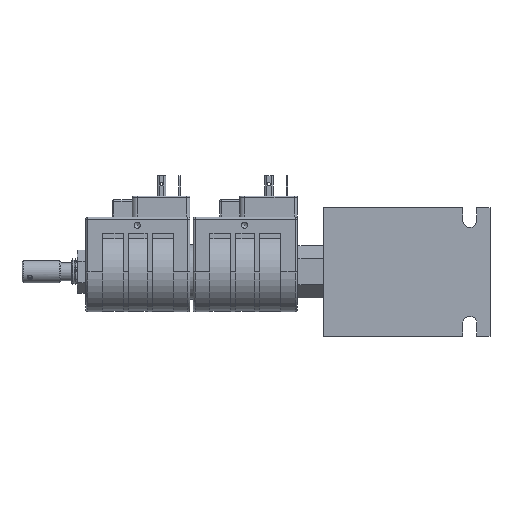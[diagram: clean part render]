
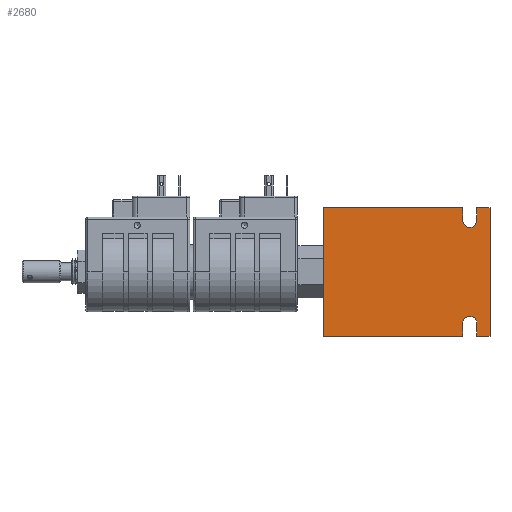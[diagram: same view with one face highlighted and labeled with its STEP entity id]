
A CAD part, front view. The second image highlights one B-rep face of the part: STEP entity #2680.
In plain terms, the highlighted planar face has unit normal (0, -1, 0) as drawn and (0, 0, -1) by its records, which use the part's own axes.
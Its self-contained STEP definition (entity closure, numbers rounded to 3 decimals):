
#2680 = ADVANCED_FACE( '', ( #5522 ), #5523, .T. );
#5522 = FACE_OUTER_BOUND( '', #8658, .T. );
#5523 = PLANE( '', #8659 );
#8658 = EDGE_LOOP( '', ( #15074, #15075, #15076, #15077, #15078, #15079, #15080, #15081, #15082, #15083, #15084, #15085 ) );
#8659 = AXIS2_PLACEMENT_3D( '', #15086, #15087, #15088 );
#15074 = ORIENTED_EDGE( '', *, *, #18343, .F. );
#15075 = ORIENTED_EDGE( '', *, *, #19272, .F. );
#15076 = ORIENTED_EDGE( '', *, *, #19098, .F. );
#15077 = ORIENTED_EDGE( '', *, *, #18866, .T. );
#15078 = ORIENTED_EDGE( '', *, *, #16979, .T. );
#15079 = ORIENTED_EDGE( '', *, *, #18737, .T. );
#15080 = ORIENTED_EDGE( '', *, *, #17743, .T. );
#15081 = ORIENTED_EDGE( '', *, *, #18755, .T. );
#15082 = ORIENTED_EDGE( '', *, *, #17154, .T. );
#15083 = ORIENTED_EDGE( '', *, *, #18097, .T. );
#15084 = ORIENTED_EDGE( '', *, *, #19273, .T. );
#15085 = ORIENTED_EDGE( '', *, *, #19274, .T. );
#15086 = CARTESIAN_POINT( '', ( 0., 0., 0. ) );
#15087 = DIRECTION( '', ( 0., 0., -1. ) );
#15088 = DIRECTION( '', ( -1., 0., 0. ) );
#16979 = EDGE_CURVE( '', #19639, #19637, #19640, .T. );
#17154 = EDGE_CURVE( '', #19941, #19946, #19948, .T. );
#17743 = EDGE_CURVE( '', #20933, #20938, #20940, .T. );
#18097 = EDGE_CURVE( '', #19946, #21499, #21500, .T. );
#18343 = EDGE_CURVE( '', #21893, #21894, #21895, .T. );
#18737 = EDGE_CURVE( '', #19637, #20933, #22454, .T. );
#18755 = EDGE_CURVE( '', #20938, #19941, #22482, .F. );
#18866 = EDGE_CURVE( '', #22628, #19639, #22630, .T. );
#19098 = EDGE_CURVE( '', #22628, #22927, #22928, .T. );
#19272 = EDGE_CURVE( '', #22927, #21893, #23142, .T. );
#19273 = EDGE_CURVE( '', #21499, #23143, #23144, .T. );
#19274 = EDGE_CURVE( '', #23143, #21894, #23145, .T. );
#19637 = VERTEX_POINT( '', #23590 );
#19639 = VERTEX_POINT( '', #23593 );
#19640 = LINE( '', #23594, #23595 );
#19941 = VERTEX_POINT( '', #24371 );
#19946 = VERTEX_POINT( '', #24378 );
#19948 = LINE( '', #24381, #24382 );
#20933 = VERTEX_POINT( '', #26641 );
#20938 = VERTEX_POINT( '', #26648 );
#20940 = LINE( '', #26651, #26652 );
#21499 = VERTEX_POINT( '', #27955 );
#21500 = LINE( '', #27956, #27957 );
#21893 = VERTEX_POINT( '', #28859 );
#21894 = VERTEX_POINT( '', #28860 );
#21895 = LINE( '', #28861, #28862 );
#22454 = LINE( '', #30071, #30072 );
#22482 = CIRCLE( '', #30108, 3.5 );
#22628 = VERTEX_POINT( '', #30341 );
#22630 = LINE( '', #30344, #30345 );
#22927 = VERTEX_POINT( '', #30991 );
#22928 = LINE( '', #30992, #30993 );
#23142 = CIRCLE( '', #31622, 3.5 );
#23143 = VERTEX_POINT( '', #31623 );
#23144 = LINE( '', #31624, #31625 );
#23145 = LINE( '', #31626, #31627 );
#23590 = CARTESIAN_POINT( '', ( 41., -31.75, 0. ) );
#23593 = CARTESIAN_POINT( '', ( 41., 31.75, 0. ) );
#23594 = CARTESIAN_POINT( '', ( 41., 31.75, 0. ) );
#23595 = VECTOR( '', #32476, 1000. );
#24371 = CARTESIAN_POINT( '', ( -34.5, -25.4, 0. ) );
#24378 = CARTESIAN_POINT( '', ( -34.5, -31.75, 0. ) );
#24381 = CARTESIAN_POINT( '', ( -34.5, 0., 0. ) );
#24382 = VECTOR( '', #32633, 1000. );
#26641 = CARTESIAN_POINT( '', ( -27.5, -31.75, 0. ) );
#26648 = CARTESIAN_POINT( '', ( -27.5, -25.4, 0. ) );
#26651 = CARTESIAN_POINT( '', ( -27.5, 0., 0. ) );
#26652 = VECTOR( '', #33210, 1000. );
#27955 = CARTESIAN_POINT( '', ( -41., -31.75, 0. ) );
#27956 = CARTESIAN_POINT( '', ( 41., -31.75, 0. ) );
#27957 = VECTOR( '', #33510, 1000. );
#28859 = CARTESIAN_POINT( '', ( -34.5, 25.4, 0. ) );
#28860 = CARTESIAN_POINT( '', ( -34.5, 31.75, 0. ) );
#28861 = CARTESIAN_POINT( '', ( -34.5, 0., 0. ) );
#28862 = VECTOR( '', #33675, 1000. );
#30071 = CARTESIAN_POINT( '', ( 41., -31.75, 0. ) );
#30072 = VECTOR( '', #33987, 1000. );
#30108 = AXIS2_PLACEMENT_3D( '', #34002, #34003, #34004 );
#30341 = CARTESIAN_POINT( '', ( -27.5, 31.75, 0. ) );
#30344 = CARTESIAN_POINT( '', ( -41., 31.75, 0. ) );
#30345 = VECTOR( '', #34087, 1000. );
#30991 = CARTESIAN_POINT( '', ( -27.5, 25.4, 0. ) );
#30992 = CARTESIAN_POINT( '', ( -27.5, 0., 0. ) );
#30993 = VECTOR( '', #34245, 1000. );
#31622 = AXIS2_PLACEMENT_3D( '', #34347, #34348, #34349 );
#31623 = CARTESIAN_POINT( '', ( -41., 31.75, 0. ) );
#31624 = CARTESIAN_POINT( '', ( -41., -31.75, 0. ) );
#31625 = VECTOR( '', #34350, 1000. );
#31626 = CARTESIAN_POINT( '', ( -41., 31.75, 0. ) );
#31627 = VECTOR( '', #34351, 1000. );
#32476 = DIRECTION( '', ( 0., -1., 0. ) );
#32633 = DIRECTION( '', ( 0., -1., 0. ) );
#33210 = DIRECTION( '', ( 0., 1., 0. ) );
#33510 = DIRECTION( '', ( -1., 0., 0. ) );
#33675 = DIRECTION( '', ( 0., 1., 0. ) );
#33987 = DIRECTION( '', ( -1., 0., 0. ) );
#34002 = CARTESIAN_POINT( '', ( -31., -25.4, 0. ) );
#34003 = DIRECTION( '', ( 0., 0., -1. ) );
#34004 = DIRECTION( '', ( -1., 0., 0. ) );
#34087 = DIRECTION( '', ( 1., 0., 0. ) );
#34245 = DIRECTION( '', ( 0., -1., 0. ) );
#34347 = CARTESIAN_POINT( '', ( -31., 25.4, 0. ) );
#34348 = DIRECTION( '', ( 0., 0., -1. ) );
#34349 = DIRECTION( '', ( -1., 0., 0. ) );
#34350 = DIRECTION( '', ( 0., 1., 0. ) );
#34351 = DIRECTION( '', ( 1., 0., 0. ) );
